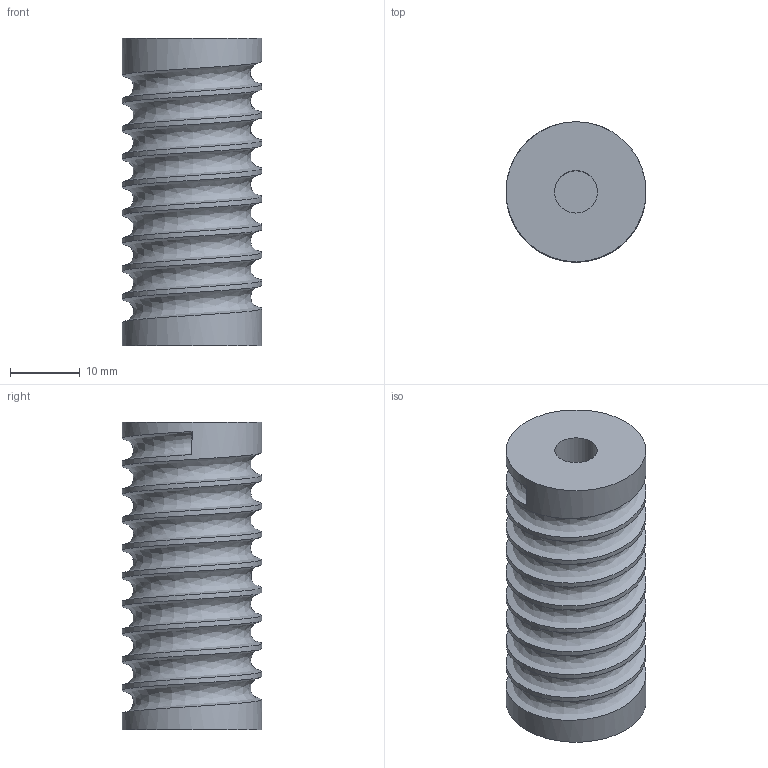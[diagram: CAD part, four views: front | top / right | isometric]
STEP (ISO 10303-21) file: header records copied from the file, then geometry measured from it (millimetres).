
FILE_DESCRIPTION(('Open CASCADE Model'),'2;1');
FILE_NAME('Open CASCADE Shape Model','2026-10-21T10:33:18',('Author'),( 'Open CASCADE'),'Open CASCADE STEP processor 7.9','Open CASCADE 7.9' ,'Unknown');
FILE_SCHEMA(('AUTOMOTIVE_DESIGN { 1 0 10303 214 1 1 1 1 }'));
Length unit declared in the file: millimetre
Products named in the file (1): Open CASCADE STEP translator 7.9 11
Bounding box: 20 x 20 x 44 mm (x, y, z)
Volume: 10455.5 mm3; surface area: 4855.7 mm2
Topology: 1 solids, 1 shells, 17 faces, 40 edges, 26 vertices
Faces by surface type: cylinder 11, plane 5, bspline 1
Full cylindrical faces by diameter (mm): 6.1 x1, 20 x10
Entity records: 5635 total; most frequent: CARTESIAN_POINT 4923, DIRECTION 94, ORIENTED_EDGE 80, PCURVE 80, DEFINITIONAL_REPRESENTATION 80, B_SPLINE_CURVE_WITH_KNOTS 60, LINE 48, VECTOR 48
